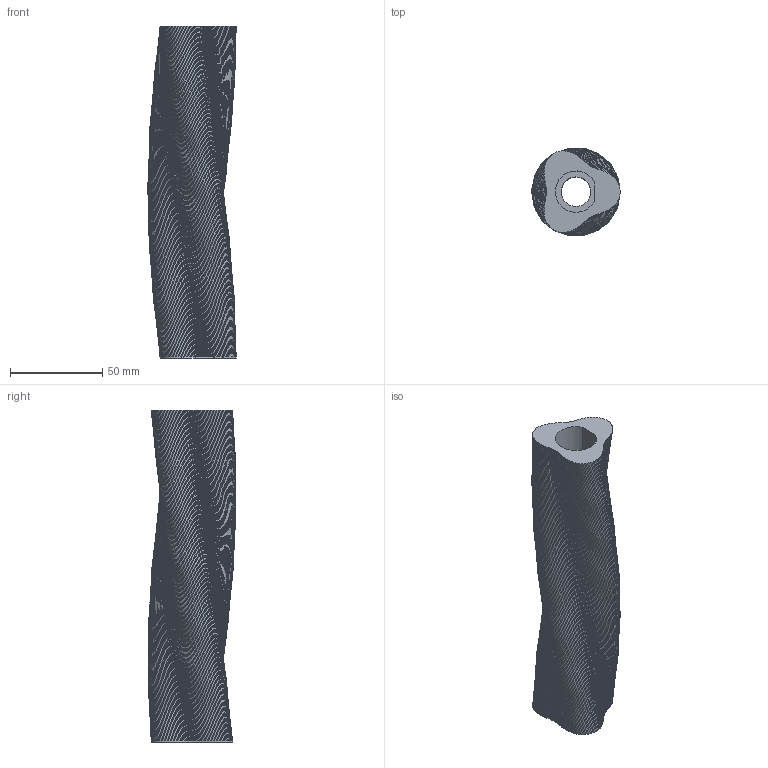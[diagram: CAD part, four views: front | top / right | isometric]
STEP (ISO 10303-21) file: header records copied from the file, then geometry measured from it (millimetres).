
FILE_DESCRIPTION(('Open CASCADE Model'),'2;1');
FILE_NAME('Open CASCADE Shape Model','2026-10-15T22:00:36',('Author'),( 'Open CASCADE'),'Open CASCADE STEP processor 7.9','Open CASCADE 7.9' ,'Unknown');
FILE_SCHEMA(('AUTOMOTIVE_DESIGN { 1 0 10303 214 1 1 1 1 }'));
Length unit declared in the file: millimetre
Products named in the file (1): Open CASCADE STEP translator 7.9 3
Bounding box: 47.99 x 47.68 x 180 mm (x, y, z)
Volume: 186957.3 mm3; surface area: 36657 mm2
Topology: 1 solids, 1 shells, 189 faces, 555 edges, 370 vertices
Faces by surface type: bspline 180, plane 6, cylinder 3
Full cylindrical faces by diameter (mm): 16 x1
Entity records: 15543 total; most frequent: CARTESIAN_POINT 7113, ORIENTED_EDGE 1110, PCURVE 1110, DEFINITIONAL_REPRESENTATION 1110, B_SPLINE_CURVE_WITH_KNOTS 1090, DIRECTION 598, LINE 563, VECTOR 563
